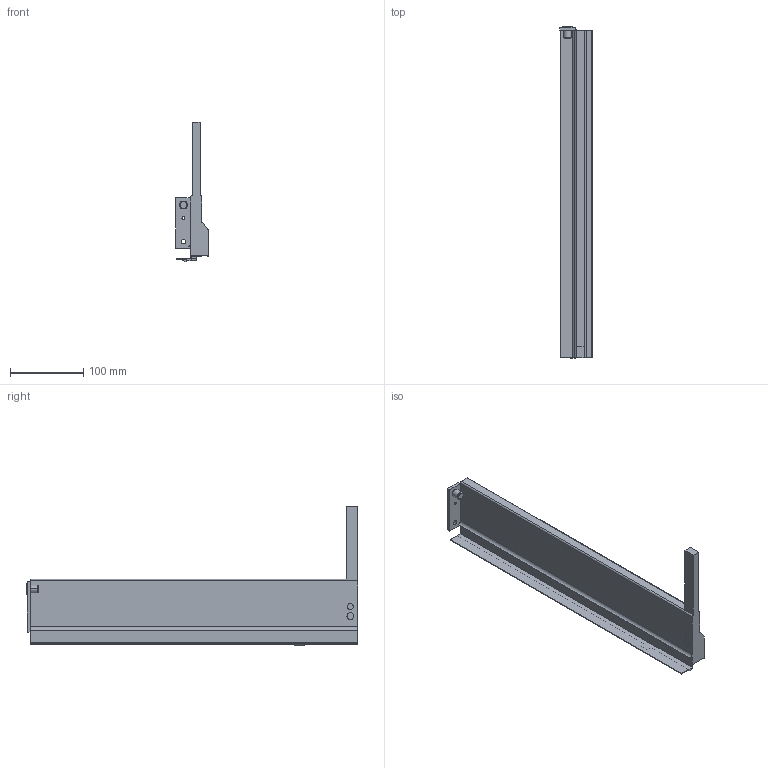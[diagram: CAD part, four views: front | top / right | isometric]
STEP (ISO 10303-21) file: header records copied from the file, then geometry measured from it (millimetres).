
FILE_DESCRIPTION (( 'STEP AP214' ), '1' );
FILE_NAME ('IMOS_NOVA-Pro_Crystal_Dekor-H90_CL_NL450_RE.step', '2010-09-28T09:47:00', ( 'Grass' ), ( '' ), 'SwSTEP 2.0', 'SolidWorks 2010', '' );
FILE_SCHEMA (( 'AUTOMOTIVE_DESIGN' ));
Length unit declared in the file: millimetre
Products named in the file (1): IMOS_NOVA-Pro_Crystal_Dekor-H90_CL_NL450_RE
Bounding box: 44.3 x 452.7 x 190.38 mm (x, y, z)
Volume: 417196.8 mm3; surface area: 161698.4 mm2
Topology: 1 solids, 1 shells, 94 faces, 256 edges, 169 vertices
Faces by surface type: plane 59, cylinder 30, cone 4, bspline 1
Entity records: 3009 total; most frequent: CARTESIAN_POINT 533, ORIENTED_EDGE 512, DIRECTION 506, EDGE_CURVE 256, VECTOR 190, LINE 190, VERTEX_POINT 169, AXIS2_PLACEMENT_3D 158
